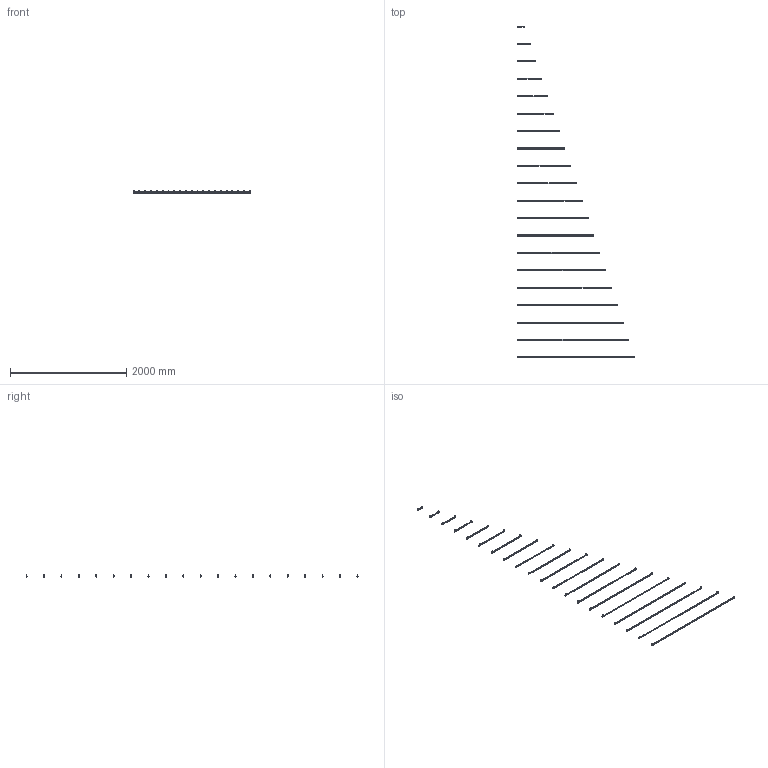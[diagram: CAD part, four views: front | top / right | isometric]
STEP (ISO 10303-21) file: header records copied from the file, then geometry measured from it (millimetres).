
FILE_DESCRIPTION(/* description */ (''),/* implementation_level */ '2;1');
FILE_NAME(/* name */ 'C:/Users/elena/OneDrive/Allegati di posta elettronica/Desktop/Piko mono 01D.step',/* time_stamp */ '2020-05-18T12:46:11+02:00',/* author */ (''),/* organization */ (''),/* preprocessor_version */ 'ST-DEVELOPER v18.1',/* originating_system */ 'Autodesk Translation Framework v9.3.0.1241',/* authorisation */ '');
FILE_SCHEMA (('AUTOMOTIVE_DESIGN { 1 0 10303 214 3 1 1 }'));
Products named in the file (2): Piko mono 01D; 01D
Assembly tree (1 placements, depth 2):
  Piko mono 01D
    01D
Bounding box: 2020 x 5719.8 x 37.24 mm (x, y, z)
Volume: 5239038.8 mm3; surface area: 2562314.3 mm2
Topology: 120 solids, 160 shells, 4189 faces, 9546 edges, 5957 vertices
Faces by surface type: plane 2069, cylinder 1720, bspline 360, cone 40
Full cylindrical faces by diameter (mm): 2.5 x120, 3 x40, 6 x120, 6.2 x40, 10 x40, 13 x80, 19.8 x40
Entity records: 151916 total; most frequent: CARTESIAN_POINT 58615, DIRECTION 19930, ORIENTED_EDGE 19092, EDGE_CURVE 9546, AXIS2_PLACEMENT_3D 7852, VERTEX_POINT 5957, EDGE_LOOP 4629, LINE 4226
